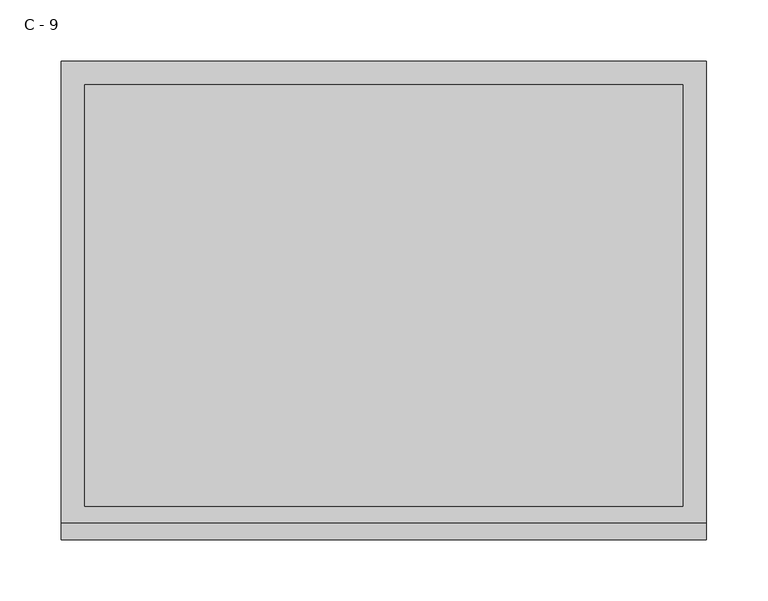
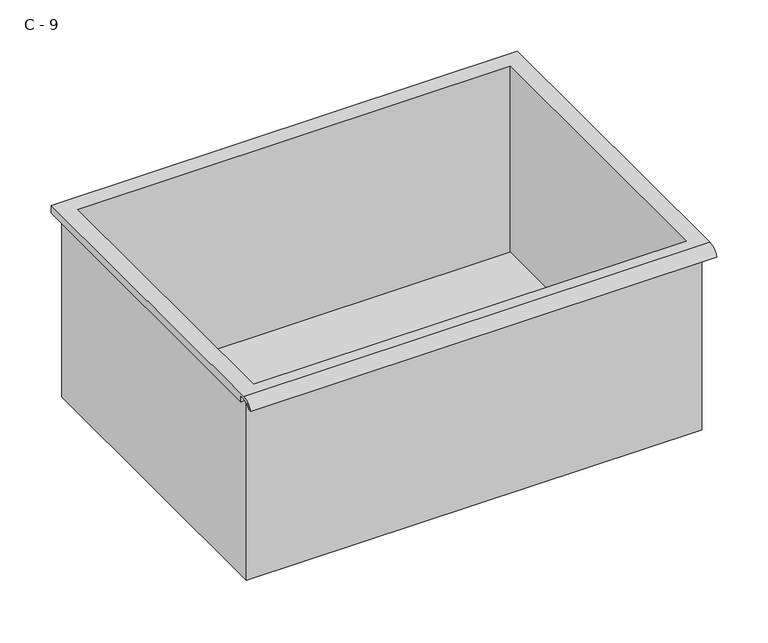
"""IFC4 building model written with IfcOpenShell, lengths in millimetres: furniture geometry, HermanMiller_CoStruc_CO207_Drawer : C - 9."""

from ifc_helpers import new_model, si_unit, frame, origin, place, context, project, spatial, polyline, circle_curve, source, transform, mapped, element, save
from ifc_brep_helpers import plane_surface, cylinder_surface, revolved_surface, advanced_brep


def c_9_dd4388d3(model_context):
    return source(origin(), model_context, "Body", "AdvancedBrep", [
        advanced_brep(
        [(-257.1076517, -176.2125, 342.10752), (257.2423483, -176.2125, 342.10752), (257.2423483, -176.2125, 558.00752), (263.5923483, -176.2125, 558.00752), (263.5923483, -176.2125, 564.3146541), (-263.4576517, -176.2125, 564.3146541), (-263.4576517, -176.2125, 558.00752), (-257.1076517, -176.2125, 558.00752), (257.2423483, 185.7375, 342.10752), (-257.1076517, 185.7375, 342.10752), (-257.1076517, 185.7375, 558.00752), (257.2423483, 185.7375, 558.00752), (263.5923483, -181.6070544, 567.53252), (263.5923483, 195.2625, 567.53252), (-263.4576517, 195.2625, 567.53252), (-263.4576517, -181.6070544, 567.53252), (244.5423483, -168.275, 567.53252), (-244.4076517, -168.275, 567.53252), (-244.4076517, 176.2125, 567.53252), (244.5423483, 176.2125, 567.53252), (263.5923483, -195.2625, 558.00752), (263.5923483, -191.8280601, 558.00752), (263.5923483, -180.4714815, 564.3146541), (263.5923483, 195.2625, 558.00752), (-263.4576517, 195.2625, 558.00752), (-263.4576517, -180.4714815, 564.3146541), (-263.4576517, -191.8280601, 558.00752), (-263.4576517, -195.2625, 558.00752), (-244.4076517, -168.275, 345.1336919), (244.5423483, -168.275, 345.1336919), (244.5423483, 176.2125, 345.1336919), (-244.4076517, 176.2125, 345.1336919)],
        [
            (0, 1),
            (1, 2),
            (2, 3),
            (3, 4),
            (4, 5),
            (5, 6),
            (6, 7),
            (7, 0),
            (8, 9),
            (9, 10),
            (10, 11),
            (11, 8),
            (0, 9),
            (8, 1),
            (11, 2),
            (12, 13),
            (13, 14),
            (14, 15),
            (15, 12),
            (16, 17),
            (17, 18),
            (18, 19),
            (19, 16),
            (7, 10),
            (12, 20, circle_curve(frame((263.5923483, -181.6070544, 552.9815059), z_axis=(1.0, 0.0, 0.0), x_axis=(0.0, 1.0, 0.0)), 14.5510141)),
            (20, 21),
            (21, 22, circle_curve(frame((263.5923483, -181.6070544, 552.9815059), z_axis=(-1.0, 0.0, 0.0), x_axis=(0.0, 1.0, 0.0)), 11.3898979)),
            (22, 4),
            (3, 23),
            (23, 13),
            (14, 24),
            (24, 6),
            (5, 25),
            (25, 26, circle_curve(frame((-263.4576517, -181.6070544, 552.9815059), z_axis=(1.0, 0.0, 0.0), x_axis=(0.0, 1.0, 0.0)), 11.3898979)),
            (26, 27),
            (27, 15, circle_curve(frame((-263.4576517, -181.6070544, 552.9815059), z_axis=(-1.0, 0.0, 0.0), x_axis=(0.0, 1.0, 0.0)), 14.5510141)),
            (27, 20),
            (26, 21),
            (25, 22),
            (24, 23),
            (28, 29),
            (29, 30),
            (30, 31),
            (31, 28),
            (28, 17),
            (16, 29),
            (19, 30),
            (18, 31),
        ],
        [
            plane_surface(frame((257.2423483, -176.2125, 342.10752), z_axis=(0.0, -1.0, 0.0), x_axis=(1.0, 0.0, 0.0))),
            plane_surface(frame((257.2423483, 185.7375, 342.10752), z_axis=(0.0, 1.0, 0.0), x_axis=(-1.0, 0.0, 0.0))),
            plane_surface(frame((-257.1076517, -176.2125, 342.10752), z_axis=(0.0, 0.0, -1.0), x_axis=(0.0, 1.0, 0.0))),
            plane_surface(frame((257.2423483, -176.2125, 342.10752), z_axis=(1.0, 0.0, 0.0), x_axis=(0.0, 1.0, 0.0))),
            plane_surface(frame((257.2423483, -176.2125, 567.53252), z_axis=(0.0, 0.0, 1.0), x_axis=(0.0, 1.0, 0.0))),
            plane_surface(frame((-257.1076517, -176.2125, 567.53252), z_axis=(-1.0, 0.0, 0.0), x_axis=(0.0, 1.0, 0.0))),
            plane_surface(frame((263.5923483, 195.2625, 567.53252), z_axis=(1.0, 0.0, 0.0), x_axis=(0.0, -1.0, 0.0))),
            plane_surface(frame((-263.4576517, 195.2625, 567.53252), z_axis=(-1.0, 0.0, 0.0), x_axis=(0.0, 1.0, 0.0))),
            cylinder_surface(frame((-263.4576517, -181.6070544, 552.9815059), z_axis=(1.0, 0.0, 0.0), x_axis=(0.0, 1.0, 0.0)), 14.5510141),
            plane_surface(frame((263.5923483, -195.2625, 558.00752), z_axis=(0.0, -7.192703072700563e-12, -1.0), x_axis=(-1.0, 0.0, 0.0))),
            revolved_surface(polyline([(-263.4576517, -170.21715650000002, 552.9815059), (263.59234829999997, -170.21715650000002, 552.9815059)]), (-263.4576517, -181.6070544, 552.9815059), (-1.0, 0.0, 0.0)),
            plane_surface(frame((263.5923483, -180.4714815, 564.3146541), z_axis=(0.0, -1.779784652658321e-11, -1.0), x_axis=(-1.0, 0.0, 0.0))),
            plane_surface(frame((263.5923483, -176.2125, 558.00752), z_axis=(0.0, 0.0, -1.0), x_axis=(-1.0, 0.0, 0.0))),
            plane_surface(frame((263.5923483, 195.2625, 558.00752), z_axis=(0.0, 1.0, 0.0), x_axis=(-1.0, 0.0, 0.0))),
            plane_surface(frame((244.5423483, -168.275, 345.1336919), z_axis=(0.0, 0.0, 1.0), x_axis=(-1.0, 0.0, 0.0))),
            plane_surface(frame((-244.4076517, -168.275, 567.53252), z_axis=(0.0, 1.0, 0.0), x_axis=(0.0, 0.0, -1.0))),
            plane_surface(frame((244.5423483, -168.275, 567.53252), z_axis=(-1.0, 0.0, 0.0), x_axis=(0.0, 0.0, -1.0))),
            plane_surface(frame((244.5423483, 176.2125, 567.53252), z_axis=(0.0, -1.0, 0.0), x_axis=(0.0, 0.0, -1.0))),
            plane_surface(frame((-244.4076517, 176.2125, 567.53252), z_axis=(1.0, 0.0, 0.0), x_axis=(0.0, 0.0, -1.0))),
        ],
        [
            (0, [[1, 2, 3, 4, 5, 6, 7, 8]]),
            (1, [[9, 10, 11, 12]]),
            (2, [[-1, 13, -9, 14]]),
            (3, [[-14, -12, 15, -2]]),
            (4, [[16, 17, 18, 19], [20, 21, 22, 23]]),
            (5, [[-13, -8, 24, -10]]),
            (6, [[-16, 25, 26, 27, 28, -4, 29, 30]]),
            (7, [[31, 32, -6, 33, 34, 35, 36, -18]]),
            (8, [[-25, -19, -36, 37]]),
            (9, [[-26, -37, -35, 38]]),
            (10, [[-27, -38, -34, 39]]),
            (11, [[-28, -39, -33, -5]]),
            (12, [[-29, -3, -15, -11, -24, -7, -32, 40]]),
            (13, [[-30, -40, -31, -17]]),
            (14, [[41, 42, 43, 44]]),
            (15, [[-41, 45, -20, 46]]),
            (16, [[-42, -46, -23, 47]]),
            (17, [[-43, -47, -22, 48]]),
            (18, [[-44, -48, -21, -45]]),
        ],
    ),
    ])


if __name__ == "__main__":
    model = new_model("IFC4")
    model_context = context("Model", 3, world=origin())
    ifc_project = project(units=[si_unit("LENGTHUNIT", "METRE", prefix="MILLI")], contexts=[model_context])
    site = spatial("IfcSite", under=ifc_project)
    building = spatial("IfcBuilding", under=site)
    placement = place(None, origin())
    c_9_shape = c_9_dd4388d3(model_context)
    element("IfcFurniture", 1, ObjectType="HermanMiller_CoStruc_CO207_Drawer : C - 9", at=placement, inside=building, context=model_context, shape_type="MappedRepresentation", body=[
        mapped(c_9_shape, transform((0.0, 0.0, 0.0), x_axis=(1.0, 0.0, 0.0), y_axis=(0.0, 1.0, 0.0), z_axis=(0.0, 0.0, 1.0))),
    ])
    save(model, "model.ifc")
